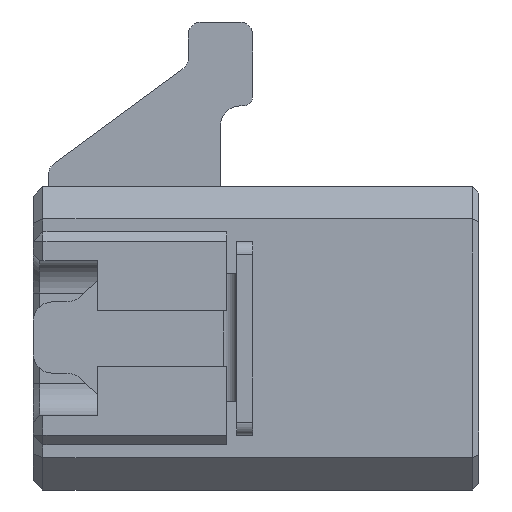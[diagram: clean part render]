
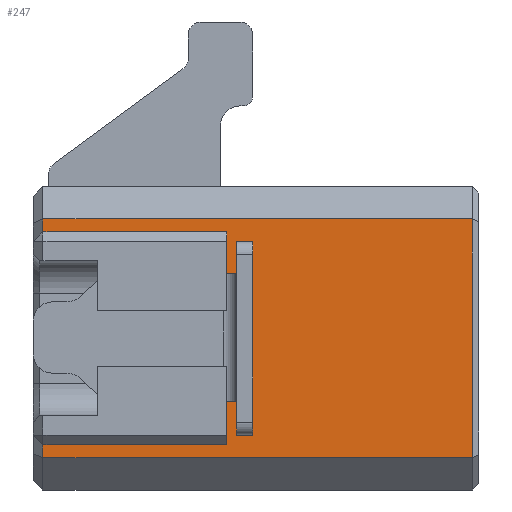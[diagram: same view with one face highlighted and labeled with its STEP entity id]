
A CAD part, left-side view. The second image highlights one B-rep face of the part: STEP entity #247.
In plain terms, the highlighted planar face has unit normal (-1, 0, 0).
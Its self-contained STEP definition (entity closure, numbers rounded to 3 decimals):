
#247 = ADVANCED_FACE ( 'NONE', ( #16455 ), #9851, .F. ) ;
#321 = DIRECTION ( 'NONE',  ( 0., -1., 0. ) ) ;
#622 = CARTESIAN_POINT ( 'NONE',  ( -7.25, 3.9, 1.65 ) ) ;
#692 = ORIENTED_EDGE ( 'NONE', *, *, #2211, .T. ) ;
#1329 = CARTESIAN_POINT ( 'NONE',  ( -7.25, 6.75, 1.65 ) ) ;
#1522 = AXIS2_PLACEMENT_3D ( 'NONE', #14826, #4650, #6588 ) ;
#2078 = VECTOR ( 'NONE', #12346, 1000. ) ;
#2175 = CARTESIAN_POINT ( 'NONE',  ( -7.25, 6.9, 1.65 ) ) ;
#2211 = EDGE_CURVE ( 'NONE', #5286, #16473, #15764, .T. ) ;
#2351 = VECTOR ( 'NONE', #16310, 1000. ) ;
#3086 = CARTESIAN_POINT ( 'NONE',  ( -7.25, 3.9, -2.35 ) ) ;
#3189 = ORIENTED_EDGE ( 'NONE', *, *, #20510, .T. ) ;
#3385 = CARTESIAN_POINT ( 'NONE',  ( -7.25, 6.75, 1.85 ) ) ;
#3688 = EDGE_CURVE ( 'NONE', #6356, #5286, #13489, .T. ) ;
#4243 = VERTEX_POINT ( 'NONE', #17908 ) ;
#4457 = VECTOR ( 'NONE', #7076, 1000. ) ;
#4650 = DIRECTION ( 'NONE',  ( 1., 0., 0. ) ) ;
#4808 = DIRECTION ( 'NONE',  ( 0., 0., -1. ) ) ;
#5286 = VERTEX_POINT ( 'NONE', #7676 ) ;
#5539 = CARTESIAN_POINT ( 'NONE',  ( -7.25, 6.9, -1.85 ) ) ;
#5786 = DIRECTION ( 'NONE',  ( 0., 0., -1. ) ) ;
#6356 = VERTEX_POINT ( 'NONE', #8458 ) ;
#6588 = DIRECTION ( 'NONE',  ( 0., 0., -1. ) ) ;
#6616 = ORIENTED_EDGE ( 'NONE', *, *, #16716, .T. ) ;
#6811 = EDGE_LOOP ( 'NONE', ( #19258, #12176, #16062, #3189, #10481, #6616, #7761, #692 ) ) ;
#7076 = DIRECTION ( 'NONE',  ( 0., 1., 0. ) ) ;
#7339 = VECTOR ( 'NONE', #5786, 1000. ) ;
#7578 = CARTESIAN_POINT ( 'NONE',  ( -7.25, 0.1, -2.35 ) ) ;
#7638 = EDGE_CURVE ( 'NONE', #16473, #20157, #17123, .T. ) ;
#7676 = CARTESIAN_POINT ( 'NONE',  ( -7.25, 6.75, -1.65 ) ) ;
#7761 = ORIENTED_EDGE ( 'NONE', *, *, #3688, .T. ) ;
#7791 = CARTESIAN_POINT ( 'NONE',  ( -7.25, 6.9, 1.85 ) ) ;
#8458 = CARTESIAN_POINT ( 'NONE',  ( -7.25, 3.9, -1.65 ) ) ;
#8844 = CARTESIAN_POINT ( 'NONE',  ( -7.25, 0.1, -1.85 ) ) ;
#9074 = EDGE_CURVE ( 'NONE', #15193, #10055, #14400, .T. ) ;
#9745 = DIRECTION ( 'NONE',  ( 0., 1., 0. ) ) ;
#9851 = PLANE ( 'NONE',  #1522 ) ;
#10055 = VERTEX_POINT ( 'NONE', #3385 ) ;
#10213 = VERTEX_POINT ( 'NONE', #622 ) ;
#10481 = ORIENTED_EDGE ( 'NONE', *, *, #16185, .T. ) ;
#10780 = CARTESIAN_POINT ( 'NONE',  ( -7.25, 6.75, -1.85 ) ) ;
#12159 = DIRECTION ( 'NONE',  ( 0., -1., 0. ) ) ;
#12176 = ORIENTED_EDGE ( 'NONE', *, *, #19018, .T. ) ;
#12346 = DIRECTION ( 'NONE',  ( 0., 0., 1. ) ) ;
#13205 = VECTOR ( 'NONE', #9745, 1000. ) ;
#13489 = LINE ( 'NONE', #20082, #4457 ) ;
#13967 = LINE ( 'NONE', #7578, #2078 ) ;
#14400 = LINE ( 'NONE', #7791, #13205 ) ;
#14826 = CARTESIAN_POINT ( 'NONE',  ( -7.25, 6.9, -2.35 ) ) ;
#15188 = LINE ( 'NONE', #2175, #20723 ) ;
#15193 = VERTEX_POINT ( 'NONE', #21271 ) ;
#15764 = LINE ( 'NONE', #10780, #7339 ) ;
#16062 = ORIENTED_EDGE ( 'NONE', *, *, #9074, .T. ) ;
#16185 = EDGE_CURVE ( 'NONE', #4243, #10213, #15188, .T. ) ;
#16266 = VECTOR ( 'NONE', #12159, 1000. ) ;
#16310 = DIRECTION ( 'NONE',  ( 0., 0., -1. ) ) ;
#16455 = FACE_OUTER_BOUND ( 'NONE', #6811, .T. ) ;
#16473 = VERTEX_POINT ( 'NONE', #17392 ) ;
#16716 = EDGE_CURVE ( 'NONE', #10213, #6356, #21177, .T. ) ;
#17123 = LINE ( 'NONE', #5539, #16266 ) ;
#17392 = CARTESIAN_POINT ( 'NONE',  ( -7.25, 6.75, -1.85 ) ) ;
#17908 = CARTESIAN_POINT ( 'NONE',  ( -7.25, 6.75, 1.65 ) ) ;
#17912 = LINE ( 'NONE', #1329, #18172 ) ;
#18172 = VECTOR ( 'NONE', #4808, 1000. ) ;
#19018 = EDGE_CURVE ( 'NONE', #20157, #15193, #13967, .T. ) ;
#19258 = ORIENTED_EDGE ( 'NONE', *, *, #7638, .T. ) ;
#20082 = CARTESIAN_POINT ( 'NONE',  ( -7.25, 6.9, -1.65 ) ) ;
#20157 = VERTEX_POINT ( 'NONE', #8844 ) ;
#20510 = EDGE_CURVE ( 'NONE', #10055, #4243, #17912, .T. ) ;
#20723 = VECTOR ( 'NONE', #321, 1000. ) ;
#21177 = LINE ( 'NONE', #3086, #2351 ) ;
#21271 = CARTESIAN_POINT ( 'NONE',  ( -7.25, 0.1, 1.85 ) ) ;
